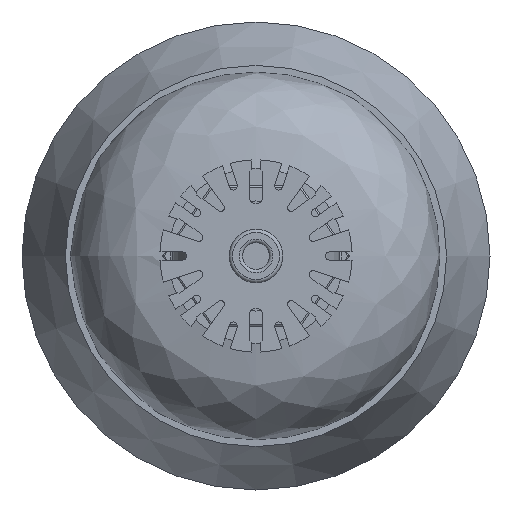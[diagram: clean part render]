
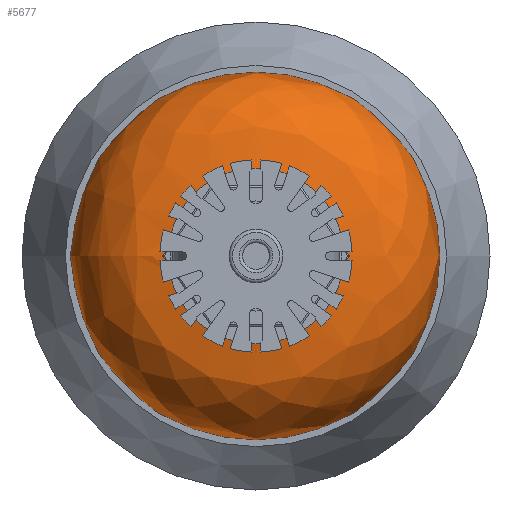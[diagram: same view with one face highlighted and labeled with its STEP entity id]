
A CAD part, front view. The second image highlights one B-rep face of the part: STEP entity #5677.
In plain terms, the highlighted free-form (B-spline) face has degree [2, 2] with [5, 9] control points.
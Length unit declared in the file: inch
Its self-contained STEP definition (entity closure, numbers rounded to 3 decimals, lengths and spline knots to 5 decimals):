
#267=(
BOUNDED_SURFACE()
B_SPLINE_SURFACE(2,2,((#8354,#8355,#8356,#8357,#8358,#8359,#8360,#8361,
#8362),(#8363,#8364,#8365,#8366,#8367,#8368,#8369,#8370,#8371),(#8372,#8373,
#8374,#8375,#8376,#8377,#8378,#8379,#8380),(#8381,#8382,#8383,#8384,#8385,
#8386,#8387,#8388,#8389),(#8390,#8391,#8392,#8393,#8394,#8395,#8396,#8397,
#8398)),.UNSPECIFIED.,.F.,.T.,.F.)
B_SPLINE_SURFACE_WITH_KNOTS((3,2,3),(3,2,2,2,3),(-0.19301,0.69818,
1.58937),(-3.14159,-1.5708,0.,1.5708,
3.14159),.UNSPECIFIED.)
GEOMETRIC_REPRESENTATION_ITEM()
RATIONAL_B_SPLINE_SURFACE(((1.,0.707,1.,0.707,1.,
0.707,1.,0.707,1.),(0.902,0.638,
0.902,0.638,0.902,0.638,
0.902,0.638,0.902),(1.,0.707,
1.,0.707,1.,0.707,1.,0.707,1.),(0.902,
0.638,0.902,0.638,0.902,
0.638,0.902,0.638,0.902),
(1.,0.707,1.,0.707,1.,0.707,1.,0.707,
1.)))
REPRESENTATION_ITEM('')
SURFACE()
);
#1134=FACE_OUTER_BOUND('',#1466,.T.);
#1466=EDGE_LOOP('',(#3569,#3570,#3571,#3572,#3573,#3574));
#1815=CIRCLE('',#6076,1.375);
#1816=CIRCLE('',#6077,1.375);
#1817=CIRCLE('',#6078,0.6575);
#1818=CIRCLE('',#6079,0.6575);
#1819=CIRCLE('',#6080,0.7175);
#2162=VERTEX_POINT('',#8349);
#2163=VERTEX_POINT('',#8350);
#2164=VERTEX_POINT('',#8399);
#2165=VERTEX_POINT('',#8400);
#2699=EDGE_CURVE('',#2162,#2163,#1815,.T.);
#2700=EDGE_CURVE('',#2163,#2162,#1816,.T.);
#2702=EDGE_CURVE('',#2164,#2165,#1817,.T.);
#2703=EDGE_CURVE('',#2165,#2164,#1818,.T.);
#2704=EDGE_CURVE('',#2165,#2163,#1819,.T.);
#3569=ORIENTED_EDGE('',*,*,#2702,.F.);
#3570=ORIENTED_EDGE('',*,*,#2703,.F.);
#3571=ORIENTED_EDGE('',*,*,#2704,.T.);
#3572=ORIENTED_EDGE('',*,*,#2700,.T.);
#3573=ORIENTED_EDGE('',*,*,#2699,.T.);
#3574=ORIENTED_EDGE('',*,*,#2704,.F.);
#5677=ADVANCED_FACE('',(#1134),#267,.F.);
#6076=AXIS2_PLACEMENT_3D('',#8351,#6734,#6735);
#6077=AXIS2_PLACEMENT_3D('',#8352,#6736,#6737);
#6078=AXIS2_PLACEMENT_3D('',#8401,#6739,#6740);
#6079=AXIS2_PLACEMENT_3D('',#8402,#6741,#6742);
#6080=AXIS2_PLACEMENT_3D('',#8403,#6743,#6744);
#6734=DIRECTION('center_axis',(0.,-1.,0.));
#6735=DIRECTION('ref_axis',(1.,0.,0.));
#6736=DIRECTION('center_axis',(0.,-1.,0.));
#6737=DIRECTION('ref_axis',(1.,0.,0.));
#6739=DIRECTION('center_axis',(0.,-1.,0.));
#6740=DIRECTION('ref_axis',(1.,0.,0.));
#6741=DIRECTION('center_axis',(0.,-1.,0.));
#6742=DIRECTION('ref_axis',(1.,0.,0.));
#6743=DIRECTION('center_axis',(0.,0.,
1.));
#6744=DIRECTION('ref_axis',(1.,0.,0.));
#8349=CARTESIAN_POINT('',(-1.375,2.355,0.));
#8350=CARTESIAN_POINT('',(1.375,2.355,0.));
#8351=CARTESIAN_POINT('Origin',(0.,2.355,0.));
#8352=CARTESIAN_POINT('Origin',(0.,2.355,0.));
#8354=CARTESIAN_POINT('Ctrl Pts',(1.375,2.355,0.));
#8355=CARTESIAN_POINT('Ctrl Pts',(1.375,2.355,1.375));
#8356=CARTESIAN_POINT('Ctrl Pts',(0.,2.355,1.375));
#8357=CARTESIAN_POINT('Ctrl Pts',(-1.375,2.355,1.375));
#8358=CARTESIAN_POINT('Ctrl Pts',(-1.375,2.355,0.));
#8359=CARTESIAN_POINT('Ctrl Pts',(-1.375,2.355,-1.375));
#8360=CARTESIAN_POINT('Ctrl Pts',(0.,2.355,-1.375));
#8361=CARTESIAN_POINT('Ctrl Pts',(1.375,2.355,-1.375));
#8362=CARTESIAN_POINT('Ctrl Pts',(1.375,2.355,0.));
#8363=CARTESIAN_POINT('Ctrl Pts',(1.44073,2.01866,0.));
#8364=CARTESIAN_POINT('Ctrl Pts',(1.44073,2.01866,1.44073));
#8365=CARTESIAN_POINT('Ctrl Pts',(0.,2.01866,1.44073));
#8366=CARTESIAN_POINT('Ctrl Pts',(-1.44073,2.01866,1.44073));
#8367=CARTESIAN_POINT('Ctrl Pts',(-1.44073,2.01866,0.));
#8368=CARTESIAN_POINT('Ctrl Pts',(-1.44073,2.01866,-1.44073));
#8369=CARTESIAN_POINT('Ctrl Pts',(0.,2.01866,-1.44073));
#8370=CARTESIAN_POINT('Ctrl Pts',(1.44073,2.01866,-1.44073));
#8371=CARTESIAN_POINT('Ctrl Pts',(1.44073,2.01866,0.));
#8372=CARTESIAN_POINT('Ctrl Pts',(1.22044,1.75615,0.));
#8373=CARTESIAN_POINT('Ctrl Pts',(1.22044,1.75615,1.22044));
#8374=CARTESIAN_POINT('Ctrl Pts',(0.,1.75615,1.22044));
#8375=CARTESIAN_POINT('Ctrl Pts',(-1.22044,1.75615,1.22044));
#8376=CARTESIAN_POINT('Ctrl Pts',(-1.22044,1.75615,0.));
#8377=CARTESIAN_POINT('Ctrl Pts',(-1.22044,1.75615,-1.22044));
#8378=CARTESIAN_POINT('Ctrl Pts',(0.,1.75615,-1.22044));
#8379=CARTESIAN_POINT('Ctrl Pts',(1.22044,1.75615,-1.22044));
#8380=CARTESIAN_POINT('Ctrl Pts',(1.22044,1.75615,0.));
#8381=CARTESIAN_POINT('Ctrl Pts',(1.00014,1.49364,0.));
#8382=CARTESIAN_POINT('Ctrl Pts',(1.00014,1.49364,1.00014));
#8383=CARTESIAN_POINT('Ctrl Pts',(0.,1.49364,1.00014));
#8384=CARTESIAN_POINT('Ctrl Pts',(-1.00014,1.49364,1.00014));
#8385=CARTESIAN_POINT('Ctrl Pts',(-1.00014,1.49364,0.));
#8386=CARTESIAN_POINT('Ctrl Pts',(-1.00014,1.49364,-1.00014));
#8387=CARTESIAN_POINT('Ctrl Pts',(0.,1.49364,-1.00014));
#8388=CARTESIAN_POINT('Ctrl Pts',(1.00014,1.49364,-1.00014));
#8389=CARTESIAN_POINT('Ctrl Pts',(1.00014,1.49364,0.));
#8390=CARTESIAN_POINT('Ctrl Pts',(0.6575,1.5,0.));
#8391=CARTESIAN_POINT('Ctrl Pts',(0.6575,1.5,0.6575));
#8392=CARTESIAN_POINT('Ctrl Pts',(0.,1.5,0.6575));
#8393=CARTESIAN_POINT('Ctrl Pts',(-0.6575,1.5,0.6575));
#8394=CARTESIAN_POINT('Ctrl Pts',(-0.6575,1.5,0.));
#8395=CARTESIAN_POINT('Ctrl Pts',(-0.6575,1.5,-0.6575));
#8396=CARTESIAN_POINT('Ctrl Pts',(0.,1.5,-0.6575));
#8397=CARTESIAN_POINT('Ctrl Pts',(0.6575,1.5,-0.6575));
#8398=CARTESIAN_POINT('Ctrl Pts',(0.6575,1.5,0.));
#8399=CARTESIAN_POINT('',(-0.6575,1.5,0.));
#8400=CARTESIAN_POINT('',(0.6575,1.5,0.));
#8401=CARTESIAN_POINT('Origin',(0.,1.5,0.));
#8402=CARTESIAN_POINT('Origin',(0.,1.5,0.));
#8403=CARTESIAN_POINT('Origin',(0.67082,2.21738,0.));
